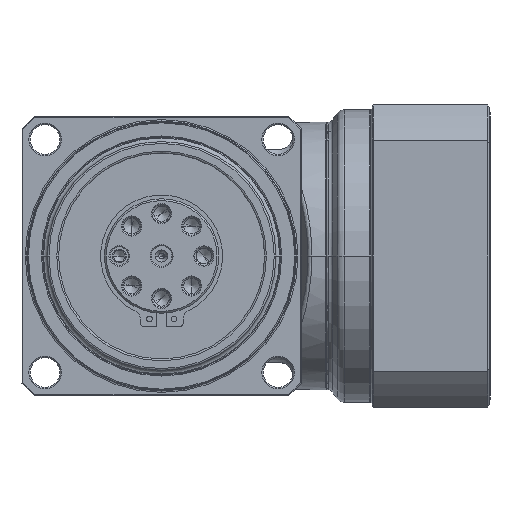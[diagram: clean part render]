
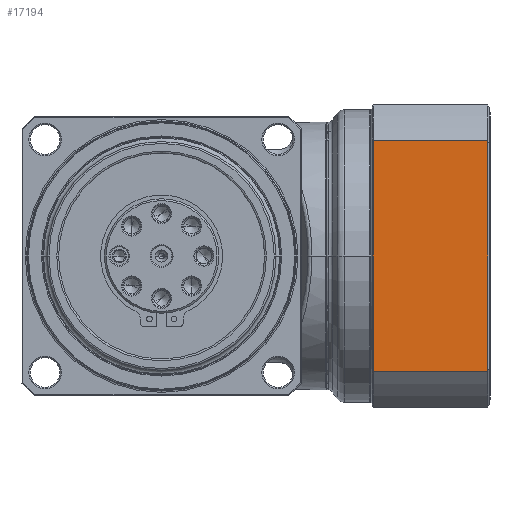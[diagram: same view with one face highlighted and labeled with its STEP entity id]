
A CAD part, left-side view. The second image highlights one B-rep face of the part: STEP entity #17194.
In plain terms, the highlighted planar face has unit normal (-1, 0, 0) as drawn and (0, -1, 0) by its records, which use the part's own axes.
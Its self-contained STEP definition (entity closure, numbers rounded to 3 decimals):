
#16009=CARTESIAN_POINT('',(50.329,-66.,53.));
#16018=DIRECTION('',(1.,0.,0.));
#16019=VECTOR('',#16018,100.658);
#16020=CARTESIAN_POINT('',(-50.329,-66.,53.));
#16021=LINE('',#16020,#16019);
#16022=DIRECTION('',(0.,0.,1.));
#16023=VECTOR('',#16022,50.1);
#16024=CARTESIAN_POINT('',(50.329,-66.,
2.9));
#16025=LINE('',#16024,#16023);
#16026=DIRECTION('',(1.,0.,0.));
#16027=VECTOR('',#16026,100.658);
#16028=CARTESIAN_POINT('',(-50.329,-66.,
2.9));
#16029=LINE('',#16028,#16027);
#16030=DIRECTION('',(0.,0.,1.));
#16031=VECTOR('',#16030,50.1);
#16032=CARTESIAN_POINT('',(-50.329,-66.,
2.9));
#16033=LINE('',#16032,#16031);
#16466=CARTESIAN_POINT('',(-50.329,-66.,2.9));
#16468=VERTEX_POINT('',#16466);
#16471=CARTESIAN_POINT('',(50.329,-66.,
2.9));
#16472=VERTEX_POINT('',#16471);
#16518=CARTESIAN_POINT('',(-50.329,-66.,53.));
#16520=VERTEX_POINT('',#16518);
#16528=VERTEX_POINT('',#16009);
#17180=CARTESIAN_POINT('',(-66.,-66.,0.));
#17181=DIRECTION('',(0.,-1.,0.));
#17182=DIRECTION('',(1.,0.,0.));
#17183=AXIS2_PLACEMENT_3D('',#17180,#17181,#17182);
#17184=PLANE('',#17183);
#17185=ORIENTED_EDGE('',*,*,#17173,.T.);
#17187=ORIENTED_EDGE('',*,*,#17186,.F.);
#17189=ORIENTED_EDGE('',*,*,#17188,.F.);
#17191=ORIENTED_EDGE('',*,*,#17190,.T.);
#17192=EDGE_LOOP('',(#17185,#17187,#17189,#17191));
#17193=FACE_OUTER_BOUND('',#17192,.F.);
#17194=ADVANCED_FACE('',(#17193),#17184,.T.);
#17173=EDGE_CURVE('',#16520,#16528,#16021,.T.);
#17186=EDGE_CURVE('',#16472,#16528,#16025,.T.);
#17188=EDGE_CURVE('',#16468,#16472,#16029,.T.);
#17190=EDGE_CURVE('',#16468,#16520,#16033,.T.);
